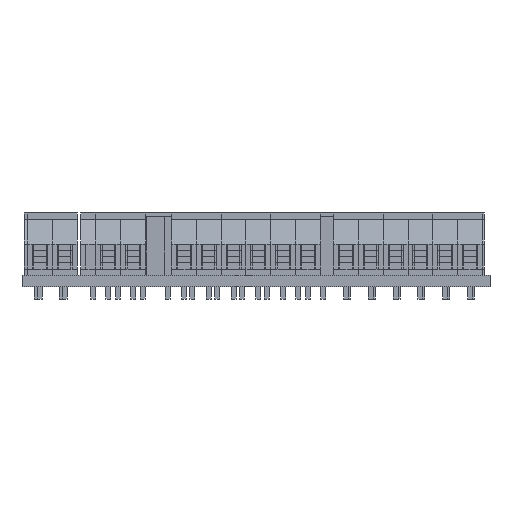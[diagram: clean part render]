
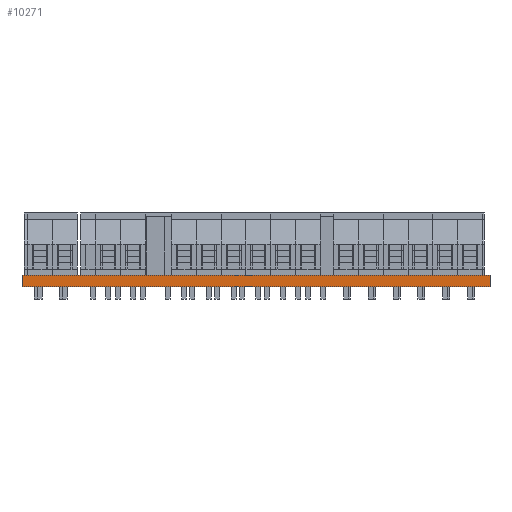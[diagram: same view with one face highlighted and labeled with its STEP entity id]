
A CAD part, front view. The second image highlights one B-rep face of the part: STEP entity #10271.
In plain terms, the highlighted planar face has unit normal (0, -1, 0).
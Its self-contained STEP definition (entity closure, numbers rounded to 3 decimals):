
#10271=ADVANCED_FACE('',(#14687),#69575,.T.);
#14687=FACE_OUTER_BOUND('',#19338,.T.);
#19338=EDGE_LOOP('',(#38161,#38162,#38163,#38164));
#38161=ORIENTED_EDGE('',*,*,#48914,.T.);
#38162=ORIENTED_EDGE('',*,*,#48983,.F.);
#38163=ORIENTED_EDGE('',*,*,#48984,.T.);
#38164=ORIENTED_EDGE('',*,*,#48985,.T.);
#48914=EDGE_CURVE('',#65384,#65381,#58566,.T.);
#48983=EDGE_CURVE('',#65452,#65381,#58569,.T.);
#48984=EDGE_CURVE('',#65452,#65453,#58570,.T.);
#48985=EDGE_CURVE('',#65453,#65384,#58571,.T.);
#58566=B_SPLINE_CURVE_WITH_KNOTS('',1,(#115019,#115020),.UNSPECIFIED.,.F.,
 .F.,(2,2),(0.,66.032),.UNSPECIFIED.);
#58569=B_SPLINE_CURVE_WITH_KNOTS('',1,(#115619,#115620),.UNSPECIFIED.,.F.,
 .F.,(2,2),(-1.6,0.),.UNSPECIFIED.);
#58570=B_SPLINE_CURVE_WITH_KNOTS('',1,(#115621,#115622),.UNSPECIFIED.,.F.,
 .F.,(2,2),(-66.032,0.),.UNSPECIFIED.);
#58571=B_SPLINE_CURVE_WITH_KNOTS('',1,(#115623,#115624),.UNSPECIFIED.,.F.,
 .F.,(2,2),(-1.6,0.),.UNSPECIFIED.);
#65381=VERTEX_POINT('',#114513);
#65384=VERTEX_POINT('',#114516);
#65452=VERTEX_POINT('',#114584);
#65453=VERTEX_POINT('',#114585);
#69575=PLANE('',#73775);
#73775=AXIS2_PLACEMENT_3D('',#113141,#77598,$);
#77598=DIRECTION('',(0.,-1.,0.));
#113141=CARTESIAN_POINT('',(33.016,-20.687,0.));
#114513=CARTESIAN_POINT('',(-33.016,-20.687,0.));
#114516=CARTESIAN_POINT('',(33.016,-20.687,0.));
#114584=CARTESIAN_POINT('',(-33.016,-20.687,-1.6));
#114585=CARTESIAN_POINT('',(33.016,-20.687,-1.6));
#115019=CARTESIAN_POINT('',(33.016,-20.687,0.));
#115020=CARTESIAN_POINT('',(-33.016,-20.687,0.));
#115619=CARTESIAN_POINT('',(-33.016,-20.687,-1.6));
#115620=CARTESIAN_POINT('',(-33.016,-20.687,0.));
#115621=CARTESIAN_POINT('',(-33.016,-20.687,-1.6));
#115622=CARTESIAN_POINT('',(33.016,-20.687,-1.6));
#115623=CARTESIAN_POINT('',(33.016,-20.687,-1.6));
#115624=CARTESIAN_POINT('',(33.016,-20.687,0.));
